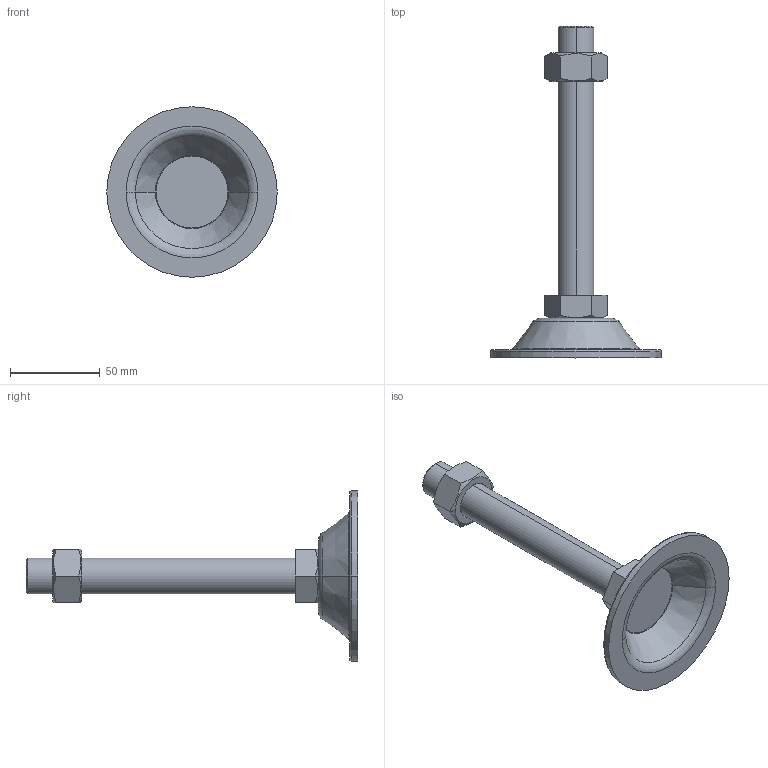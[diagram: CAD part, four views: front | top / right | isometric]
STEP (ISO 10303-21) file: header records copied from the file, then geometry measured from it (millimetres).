
FILE_DESCRIPTION (( 'STEP AP214' ), '1' );
FILE_NAME ('BL95-M20-150.step', '2021-01-06T05:41:29', ( '' ), ( '' ), 'SwSTEP 2.0', 'SolidWorks 2019', '' );
FILE_SCHEMA (( 'AUTOMOTIVE_DESIGN' ));
Length unit declared in the file: millimetre
Products named in the file (1): BL95-M20-150
Bounding box: 95 x 185 x 95 mm (x, y, z)
Volume: 102753.6 mm3; surface area: 33925.5 mm2
Topology: 3 solids, 3 shells, 53 faces, 110 edges, 66 vertices
Faces by surface type: plane 21, cone 16, torus 10, cylinder 6
Entity records: 1630 total; most frequent: CARTESIAN_POINT 440, DIRECTION 252, ORIENTED_EDGE 220, EDGE_CURVE 110, AXIS2_PLACEMENT_3D 106, VERTEX_POINT 66, EDGE_LOOP 58, ADVANCED_FACE 53
